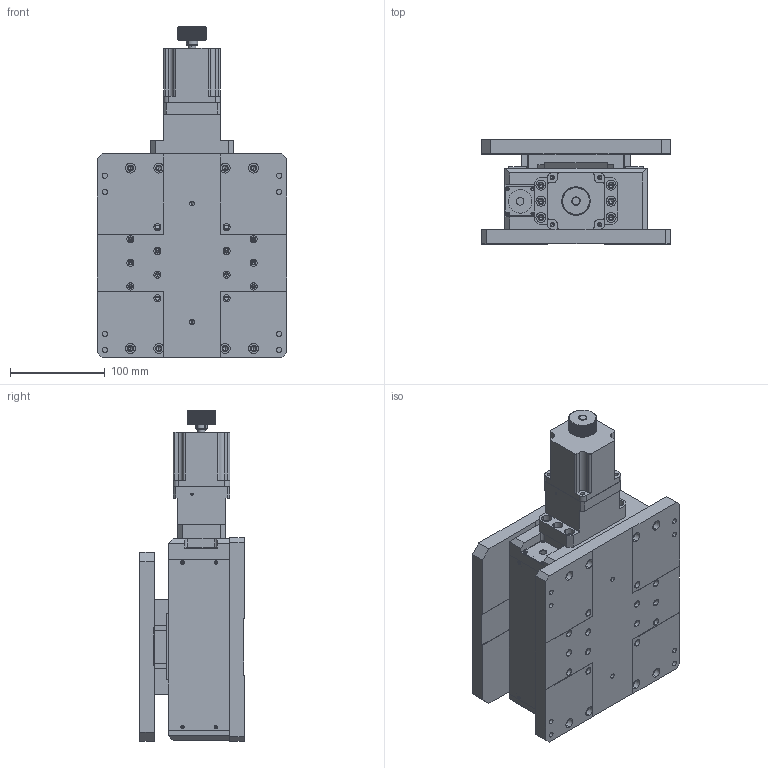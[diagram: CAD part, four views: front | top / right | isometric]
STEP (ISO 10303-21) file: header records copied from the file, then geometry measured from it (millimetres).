
FILE_DESCRIPTION (( 'STEP AP203' ), '1' );
FILE_NAME ('JMHZ-200.STEP', '2019-02-18T05:12:36', ( 'Windows 餌辨濠' ), ( '' ), 'SwSTEP 2.0', 'SolidWorks 2018', '' );
FILE_SCHEMA (( 'CONFIG_CONTROL_DESIGN' ));
Products named in the file (1): JMHZ-200
Bounding box: 200 x 110 x 349.5 mm (x, y, z)
Volume: 2453862 mm3; surface area: 466880.5 mm2
Topology: 17 solids, 17 shells, 1578 faces, 4172 edges, 2578 vertices
Faces by surface type: cylinder 793, plane 526, cone 259
Entity records: 51033 total; most frequent: CARTESIAN_POINT 12241, DIRECTION 8130, ORIENTED_EDGE 7888, EDGE_CURVE 3944, AXIS2_PLACEMENT_3D 3075, VERTEX_POINT 2578, EDGE_LOOP 2000, VECTOR 1980
